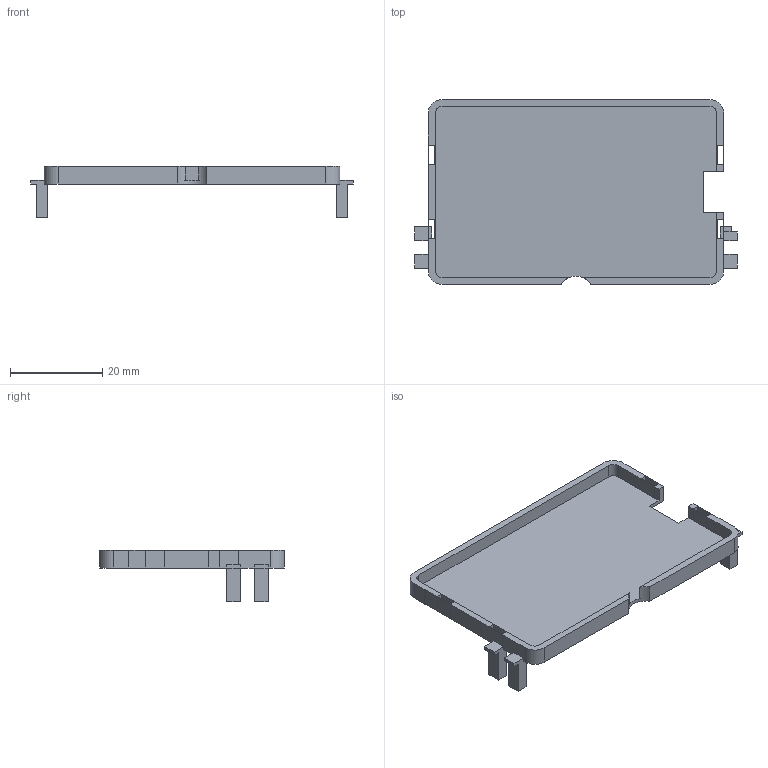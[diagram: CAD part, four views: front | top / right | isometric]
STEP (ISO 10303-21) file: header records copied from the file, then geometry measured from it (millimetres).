
FILE_DESCRIPTION(('Open CASCADE Model'),'2;1');
FILE_NAME('Open CASCADE Shape Model','2026-09-08T16:17:05',('Author'),( 'Open CASCADE'),'Open CASCADE STEP processor 7.7','Open CASCADE 7.7' ,'Unknown');
FILE_SCHEMA(('AUTOMOTIVE_DESIGN { 1 0 10303 214 1 1 1 1 }'));
Length unit declared in the file: millimetre
Products named in the file (1): Open CASCADE STEP translator 7.7 21
Bounding box: 69.8 x 40 x 11.05 mm (x, y, z)
Volume: 2963 mm3; surface area: 6829.6 mm2
Topology: 1 solids, 1 shells, 89 faces, 267 edges, 178 vertices
Faces by surface type: plane 80, cylinder 9
Entity records: 6430 total; most frequent: CARTESIAN_POINT 1169, DIRECTION 941, LINE 709, VECTOR 709, ORIENTED_EDGE 534, PCURVE 534, DEFINITIONAL_REPRESENTATION 534, EDGE_CURVE 267
